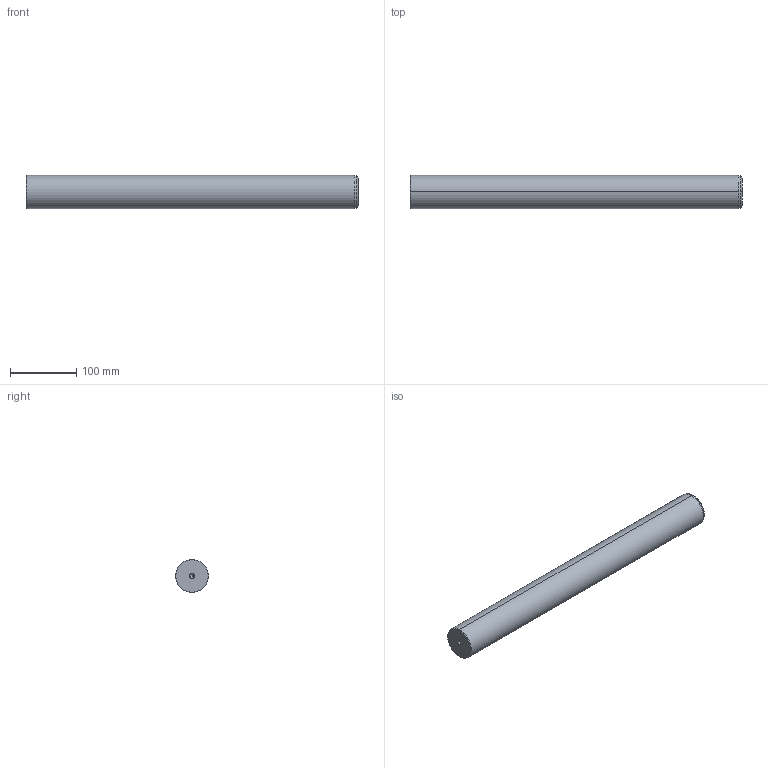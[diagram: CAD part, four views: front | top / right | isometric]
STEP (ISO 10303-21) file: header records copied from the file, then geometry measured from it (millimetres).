
FILE_DESCRIPTION(('CATIA V5 STEP Exchange'),'2;1');
FILE_NAME('C:\Users\Utente\Desktop\IO LAVORO\3D X SITO CF\X SITO\720\720-50x500.stp','2020-12-30T21:36:41+00:00',('none'),('none'),'CATIA Version 5 Release 20 GA (IN-10)','CATIA V5 STEP AP203','none');
FILE_SCHEMA(('CONFIG_CONTROL_DESIGN'));
Length unit declared in the file: millimetre
Products named in the file (1): 720-50x500
Bounding box: 500 x 50 x 50 mm (x, y, z)
Volume: 979202.9 mm3; surface area: 83059.5 mm2
Topology: 1 solids, 1 shells, 22 faces, 62 edges, 40 vertices
Faces by surface type: cone 12, cylinder 6, plane 2, torus 2
Entity records: 806 total; most frequent: CARTESIAN_POINT 229, ORIENTED_EDGE 116, DIRECTION 93, EDGE_CURVE 58, AXIS2_PLACEMENT_3D 54, VERTEX_POINT 40, CIRCLE 31, EDGE_LOOP 24
